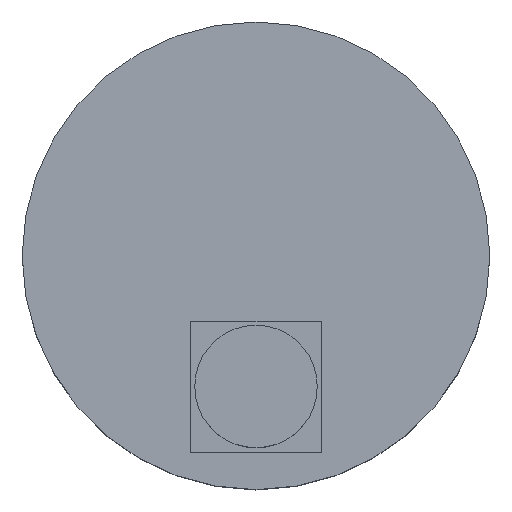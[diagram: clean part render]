
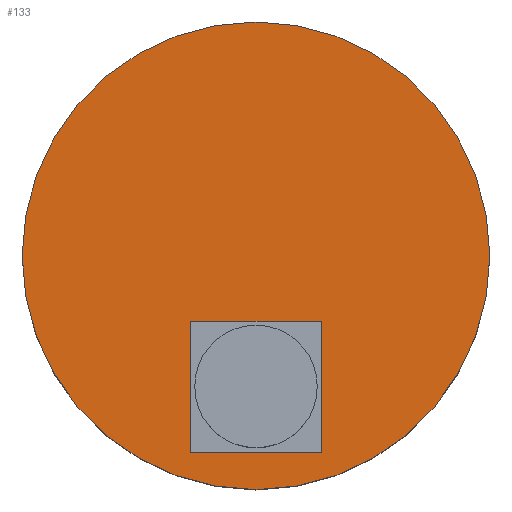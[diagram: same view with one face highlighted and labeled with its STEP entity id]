
A CAD part, top view. The second image highlights one B-rep face of the part: STEP entity #133.
In plain terms, the highlighted planar face has unit normal (0, 0, 1).
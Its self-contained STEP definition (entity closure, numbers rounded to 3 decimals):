
#1 = DIRECTION ( 'NONE',  ( 1., 0., 0. ) ) ;
#4 = EDGE_CURVE ( 'NONE', #370, #25, #19, .T. ) ;
#13 = LINE ( 'NONE', #299, #32 ) ;
#19 = LINE ( 'NONE', #410, #139 ) ;
#23 = VERTEX_POINT ( 'NONE', #230 ) ;
#25 = VERTEX_POINT ( 'NONE', #322 ) ;
#31 = FACE_BOUND ( 'NONE', #154, .T. ) ;
#32 = VECTOR ( 'NONE', #44, 1000. ) ;
#41 = CARTESIAN_POINT ( 'NONE',  ( 7., -7., 25.8 ) ) ;
#44 = DIRECTION ( 'NONE',  ( 1., 0., 0. ) ) ;
#46 = DIRECTION ( 'NONE',  ( 0., 1., 0. ) ) ;
#60 = LINE ( 'NONE', #407, #318 ) ;
#65 = AXIS2_PLACEMENT_3D ( 'NONE', #256, #319, #1 ) ;
#71 = AXIS2_PLACEMENT_3D ( 'NONE', #166, #367, #84 ) ;
#80 = CARTESIAN_POINT ( 'NONE',  ( -25., 0., 25.8 ) ) ;
#84 = DIRECTION ( 'NONE',  ( 1., 0., 0. ) ) ;
#85 = AXIS2_PLACEMENT_3D ( 'NONE', #372, #89, #161 ) ;
#87 = VERTEX_POINT ( 'NONE', #80 ) ;
#89 = DIRECTION ( 'NONE',  ( 0., 0., 1. ) ) ;
#96 = CARTESIAN_POINT ( 'NONE',  ( -7., -7., 25.8 ) ) ;
#111 = FACE_OUTER_BOUND ( 'NONE', #193, .T. ) ;
#124 = DIRECTION ( 'NONE',  ( -1., 0., 0. ) ) ;
#130 = PLANE ( 'NONE',  #65 ) ;
#132 = DIRECTION ( 'NONE',  ( 0., -1., 0. ) ) ;
#133 = ADVANCED_FACE ( 'NONE', ( #111, #31 ), #130, .T. ) ;
#139 = VECTOR ( 'NONE', #132, 1000. ) ;
#154 = EDGE_LOOP ( 'NONE', ( #286, #308, #343, #211 ) ) ;
#160 = VERTEX_POINT ( 'NONE', #225 ) ;
#161 = DIRECTION ( 'NONE',  ( 1., 0., 0. ) ) ;
#166 = CARTESIAN_POINT ( 'NONE',  ( 0., 0., 25.8 ) ) ;
#174 = CARTESIAN_POINT ( 'NONE',  ( 7., -7., 25.8 ) ) ;
#187 = VERTEX_POINT ( 'NONE', #41 ) ;
#193 = EDGE_LOOP ( 'NONE', ( #222, #310 ) ) ;
#197 = VECTOR ( 'NONE', #46, 1000. ) ;
#204 = CIRCLE ( 'NONE', #85, 25. ) ;
#208 = EDGE_CURVE ( 'NONE', #25, #160, #13, .T. ) ;
#211 = ORIENTED_EDGE ( 'NONE', *, *, #4, .F. ) ;
#222 = ORIENTED_EDGE ( 'NONE', *, *, #387, .T. ) ;
#225 = CARTESIAN_POINT ( 'NONE',  ( 7., -21., 25.8 ) ) ;
#229 = EDGE_CURVE ( 'NONE', #160, #187, #328, .T. ) ;
#230 = CARTESIAN_POINT ( 'NONE',  ( 25., 0., 25.8 ) ) ;
#256 = CARTESIAN_POINT ( 'NONE',  ( 0., 0., 25.8 ) ) ;
#286 = ORIENTED_EDGE ( 'NONE', *, *, #312, .F. ) ;
#298 = EDGE_CURVE ( 'NONE', #23, #87, #204, .T. ) ;
#299 = CARTESIAN_POINT ( 'NONE',  ( -7., -21., 25.8 ) ) ;
#308 = ORIENTED_EDGE ( 'NONE', *, *, #229, .F. ) ;
#310 = ORIENTED_EDGE ( 'NONE', *, *, #298, .T. ) ;
#312 = EDGE_CURVE ( 'NONE', #187, #370, #60, .T. ) ;
#318 = VECTOR ( 'NONE', #124, 1000. ) ;
#319 = DIRECTION ( 'NONE',  ( 0., 0., 1. ) ) ;
#322 = CARTESIAN_POINT ( 'NONE',  ( -7., -21., 25.8 ) ) ;
#328 = LINE ( 'NONE', #174, #197 ) ;
#343 = ORIENTED_EDGE ( 'NONE', *, *, #208, .F. ) ;
#367 = DIRECTION ( 'NONE',  ( 0., 0., 1. ) ) ;
#370 = VERTEX_POINT ( 'NONE', #96 ) ;
#372 = CARTESIAN_POINT ( 'NONE',  ( 0., 0., 25.8 ) ) ;
#387 = EDGE_CURVE ( 'NONE', #87, #23, #414, .T. ) ;
#407 = CARTESIAN_POINT ( 'NONE',  ( -7., -7., 25.8 ) ) ;
#410 = CARTESIAN_POINT ( 'NONE',  ( -7., -7., 25.8 ) ) ;
#414 = CIRCLE ( 'NONE', #71, 25. ) ;
